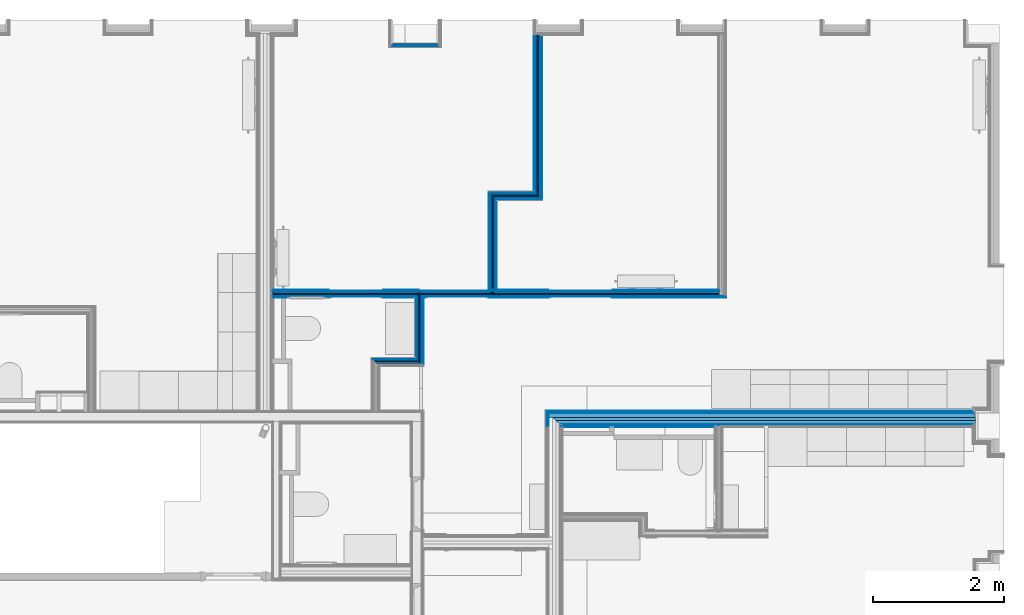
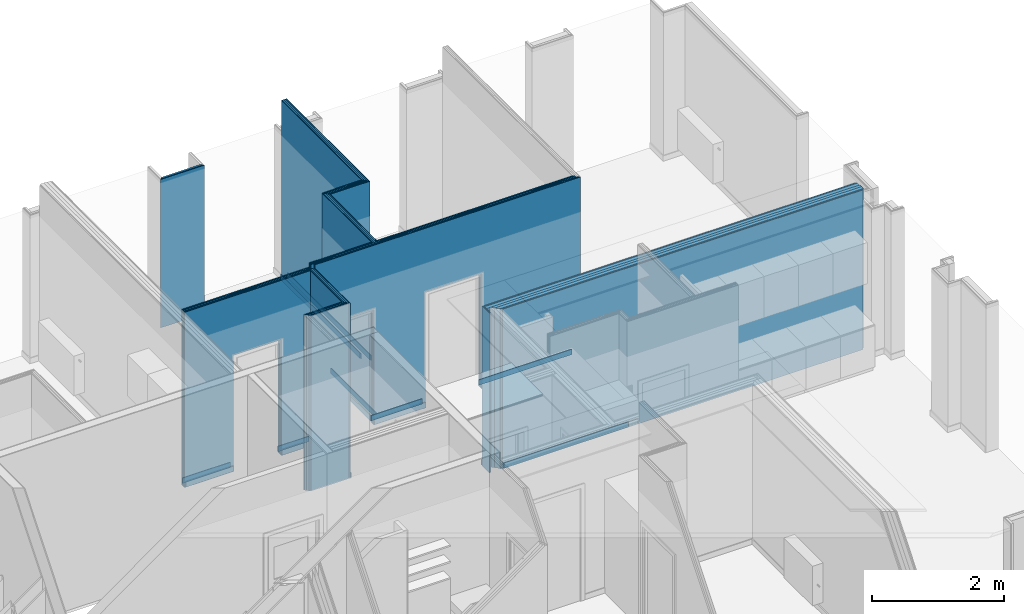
# One storey, part 22 of 64: 62 building element parts, 3 openings, 10 elements without a shape of their own.
"""IFC2X3 building model written with IfcOpenShell, lengths in metres."""

from ifc_helpers import new_model, entity, si_unit, converted_unit, derived_unit, money_unit, direction, frame, frame_2d, origin_with_axes, place, context, subcontext, project, spatial, polyline, rectangle, outline, extrude, material, type_object, element, aggregate, save


model = new_model("IFC2X3")

# Units and contexts
model_context = context("Model", 3, precision=1e-05, world=origin_with_axes(), true_north=direction((0.0, 1.0)))
body_context = subcontext(model_context, "Body", "Model", "MODEL_VIEW", scale=1.0)
ifc_project = project(units=[si_unit("LENGTHUNIT", "METRE"), si_unit("AREAUNIT", "SQUARE_METRE"), si_unit("VOLUMEUNIT", "CUBIC_METRE"), si_unit("ABSORBEDDOSEUNIT", "GRAY"), si_unit("AMOUNTOFSUBSTANCEUNIT", "MOLE"), si_unit("DOSEEQUIVALENTUNIT", "SIEVERT"), si_unit("ELECTRICCAPACITANCEUNIT", "FARAD"), si_unit("ELECTRICCHARGEUNIT", "COULOMB"), si_unit("ELECTRICCONDUCTANCEUNIT", "SIEMENS"), si_unit("ELECTRICCURRENTUNIT", "AMPERE"), si_unit("ELECTRICRESISTANCEUNIT", "OHM"), si_unit("ELECTRICVOLTAGEUNIT", "VOLT"), si_unit("ENERGYUNIT", "JOULE"), si_unit("FORCEUNIT", "NEWTON"), si_unit("FREQUENCYUNIT", "HERTZ"), si_unit("ILLUMINANCEUNIT", "LUX"), si_unit("INDUCTANCEUNIT", "HENRY"), si_unit("LUMINOUSFLUXUNIT", "LUMEN"), si_unit("LUMINOUSINTENSITYUNIT", "CANDELA"), si_unit("MAGNETICFLUXDENSITYUNIT", "TESLA"), si_unit("MAGNETICFLUXUNIT", "WEBER"), si_unit("MASSUNIT", "GRAM"), converted_unit("PLANEANGLEUNIT", "degree", entity("IfcReal", 0.0174532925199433), si_unit("PLANEANGLEUNIT", "RADIAN"), dimensions=[0, 0, 0, 0, 0, 0, 0]), si_unit("POWERUNIT", "WATT"), si_unit("PRESSUREUNIT", "PASCAL"), si_unit("RADIOACTIVITYUNIT", "BECQUEREL"), si_unit("SOLIDANGLEUNIT", "STERADIAN"), si_unit("THERMODYNAMICTEMPERATUREUNIT", "KELVIN"), si_unit("TIMEUNIT", "SECOND"), derived_unit("ACCELERATIONUNIT", [(si_unit("LENGTHUNIT", "METRE"), 1), (si_unit("TIMEUNIT", "SECOND"), -2)]), derived_unit("ANGULARVELOCITYUNIT", [(converted_unit("PLANEANGLEUNIT", "degree", entity("IfcReal", 0.0174532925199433), si_unit("PLANEANGLEUNIT", "RADIAN"), dimensions=[0, 0, 0, 0, 0, 0, 0]), 1), (si_unit("TIMEUNIT", "SECOND"), -1)]), derived_unit("CURVATUREUNIT", [(converted_unit("PLANEANGLEUNIT", "degree", entity("IfcReal", 0.0174532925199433), si_unit("PLANEANGLEUNIT", "RADIAN"), dimensions=[0, 0, 0, 0, 0, 0, 0]), 1), (si_unit("LENGTHUNIT", "METRE"), -1)]), derived_unit("DYNAMICVISCOSITYUNIT", [(si_unit("PRESSUREUNIT", "PASCAL"), 1), (si_unit("TIMEUNIT", "SECOND"), 1)]), derived_unit("HEATFLUXDENSITYUNIT", [(si_unit("POWERUNIT", "WATT"), 1), (si_unit("LENGTHUNIT", "METRE"), -2)]), derived_unit("HEATINGVALUEUNIT", [(si_unit("ENERGYUNIT", "JOULE"), 1), (si_unit("MASSUNIT", "GRAM"), -1)]), derived_unit("INTEGERCOUNTRATEUNIT", [(si_unit("TIMEUNIT", "SECOND"), -1)]), derived_unit("IONCONCENTRATIONUNIT", [(si_unit("MASSUNIT", "GRAM"), 1), (si_unit("VOLUMEUNIT", "CUBIC_METRE"), -1)]), derived_unit("ISOTHERMALMOISTURECAPACITYUNIT", [(si_unit("VOLUMEUNIT", "CUBIC_METRE"), 1), (si_unit("MASSUNIT", "GRAM"), -1)]), derived_unit("KINEMATICVISCOSITYUNIT", [(si_unit("AREAUNIT", "SQUARE_METRE"), 1), (si_unit("TIMEUNIT", "SECOND"), -1)]), derived_unit("LINEARFORCEUNIT", [(si_unit("FORCEUNIT", "NEWTON"), 1), (si_unit("LENGTHUNIT", "METRE"), -1)]), derived_unit("LINEARMOMENTUNIT", [(si_unit("FORCEUNIT", "NEWTON"), 1), (si_unit("LENGTHUNIT", "METRE"), -1)]), derived_unit("LINEARSTIFFNESSUNIT", [(si_unit("FORCEUNIT", "NEWTON"), 1), (si_unit("LENGTHUNIT", "METRE"), -1)]), derived_unit("LINEARVELOCITYUNIT", [(si_unit("LENGTHUNIT", "METRE"), 1), (si_unit("TIMEUNIT", "SECOND"), -1)]), derived_unit("LUMINOUSINTENSITYDISTRIBUTIONUNIT", [(si_unit("LUMINOUSINTENSITYUNIT", "CANDELA"), 1), (si_unit("LUMINOUSFLUXUNIT", "LUMEN"), -1)]), derived_unit("MASSDENSITYUNIT", [(si_unit("MASSUNIT", "GRAM"), 1), (si_unit("VOLUMEUNIT", "CUBIC_METRE"), -1)]), derived_unit("MASSFLOWRATEUNIT", [(si_unit("MASSUNIT", "GRAM"), 1), (si_unit("TIMEUNIT", "SECOND"), -1)]), derived_unit("MASSPERLENGTHUNIT", [(si_unit("MASSUNIT", "GRAM"), 1), (si_unit("LENGTHUNIT", "METRE"), -1)]), derived_unit("MODULUSOFELASTICITYUNIT", [(si_unit("FORCEUNIT", "NEWTON"), 1), (si_unit("AREAUNIT", "SQUARE_METRE"), -1)]), derived_unit("MODULUSOFLINEARSUBGRADEREACTIONUNIT", [(si_unit("FORCEUNIT", "NEWTON"), 1), (si_unit("LENGTHUNIT", "METRE"), -2)]), derived_unit("MODULUSOFROTATIONALSUBGRADEREACTIONUNIT", [(si_unit("FORCEUNIT", "NEWTON"), 1), (si_unit("LENGTHUNIT", "METRE"), 1)]), derived_unit("MODULUSOFSUBGRADEREACTIONUNIT", [(si_unit("FORCEUNIT", "NEWTON"), 1), (si_unit("VOLUMEUNIT", "CUBIC_METRE"), -1)]), derived_unit("MOISTUREDIFFUSIVITYUNIT", [(si_unit("VOLUMEUNIT", "CUBIC_METRE"), 1), (si_unit("TIMEUNIT", "SECOND"), -1)]), derived_unit("MOLECULARWEIGHTUNIT", [(si_unit("MASSUNIT", "GRAM"), 1), (si_unit("AMOUNTOFSUBSTANCEUNIT", "MOLE"), -1)]), derived_unit("PLANARFORCEUNIT", [(si_unit("FORCEUNIT", "NEWTON"), 1), (si_unit("LENGTHUNIT", "METRE"), -2)]), derived_unit("ROTATIONALFREQUENCYUNIT", [(si_unit("TIMEUNIT", "SECOND"), -1)]), derived_unit("ROTATIONALMASSUNIT", [(si_unit("MASSUNIT", "GRAM"), 1), (si_unit("LENGTHUNIT", "METRE"), 2)]), derived_unit("ROTATIONALSTIFFNESSUNIT", [(si_unit("FORCEUNIT", "NEWTON"), 1), (si_unit("LENGTHUNIT", "METRE"), 1), (converted_unit("PLANEANGLEUNIT", "degree", entity("IfcReal", 0.0174532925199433), si_unit("PLANEANGLEUNIT", "RADIAN"), dimensions=[0, 0, 0, 0, 0, 0, 0]), -1)]), derived_unit("SECTIONAREAINTEGRALUNIT", [(si_unit("LENGTHUNIT", "METRE"), 5)]), derived_unit("SECTIONMODULUSUNIT", [(si_unit("LENGTHUNIT", "METRE"), 3)]), derived_unit("SHEARMODULUSUNIT", [(si_unit("FORCEUNIT", "NEWTON"), 1), (si_unit("AREAUNIT", "SQUARE_METRE"), -1)]), derived_unit("SOUNDPOWERUNIT", [(si_unit("ENERGYUNIT", "JOULE"), 1), (si_unit("TIMEUNIT", "SECOND"), -1)]), derived_unit("SPECIFICHEATCAPACITYUNIT", [(si_unit("FORCEUNIT", "NEWTON"), 1), (si_unit("MASSUNIT", "GRAM"), -1), (si_unit("THERMODYNAMICTEMPERATUREUNIT", "KELVIN"), -1)]), derived_unit("TEMPERATUREGRADIENTUNIT", [(si_unit("THERMODYNAMICTEMPERATUREUNIT", "KELVIN"), 1), (si_unit("LENGTHUNIT", "METRE"), -1)]), derived_unit("THERMALADMITTANCEUNIT", [(si_unit("POWERUNIT", "WATT"), 1), (si_unit("AREAUNIT", "SQUARE_METRE"), -1), (si_unit("THERMODYNAMICTEMPERATUREUNIT", "KELVIN"), -1)]), derived_unit("THERMALCONDUCTANCEUNIT", [(si_unit("POWERUNIT", "WATT"), 1), (si_unit("LENGTHUNIT", "METRE"), -1), (si_unit("THERMODYNAMICTEMPERATUREUNIT", "KELVIN"), -1)]), derived_unit("THERMALEXPANSIONCOEFFICIENTUNIT", [(si_unit("THERMODYNAMICTEMPERATUREUNIT", "KELVIN"), -1)]), derived_unit("THERMALRESISTANCEUNIT", [(si_unit("AREAUNIT", "SQUARE_METRE"), 1), (si_unit("POWERUNIT", "WATT"), -1)]), derived_unit("THERMALTRANSMITTANCEUNIT", [(si_unit("POWERUNIT", "WATT"), 1), (si_unit("AREAUNIT", "SQUARE_METRE"), -1), (si_unit("THERMODYNAMICTEMPERATUREUNIT", "KELVIN"), -1)]), derived_unit("TORQUEUNIT", [(si_unit("FORCEUNIT", "NEWTON"), 1), (si_unit("LENGTHUNIT", "METRE"), 1)]), derived_unit("VAPORPERMEABILITYUNIT", [(si_unit("MASSUNIT", "GRAM"), 1), (si_unit("TIMEUNIT", "SECOND"), -1)]), derived_unit("VOLUMETRICFLOWRATEUNIT", [(si_unit("VOLUMEUNIT", "CUBIC_METRE"), 1), (si_unit("TIMEUNIT", "SECOND"), -1)]), derived_unit("WARPINGCONSTANTUNIT", [(si_unit("LENGTHUNIT", "METRE"), 6)]), derived_unit("WARPINGMOMENTUNIT", [(si_unit("FORCEUNIT", "NEWTON"), 1), (si_unit("LENGTHUNIT", "METRE"), 2)]), money_unit("GBP")], contexts=[model_context])

# Site, building, storey
site_placement = place(None, origin_with_axes())
site = spatial("IfcSite", under=ifc_project, at=site_placement, Name="Site", CompositionType="ELEMENT")
building_placement = place(site_placement, origin_with_axes())
building = spatial("IfcBuilding", under=site, at=building_placement, Name="Building01", CompositionType="ELEMENT")
storey_placement = place(building_placement, frame((0.0, 0.0, 8.64), z_axis=(0.0, 0.0, 1.0), x_axis=(1.0, 0.0, 0.0)))
storey = spatial("IfcBuildingStorey", under=building, at=storey_placement, Name="2F", CompositionType="ELEMENT", Elevation=8.64)

# Wall, building element parts
wall_type_1 = type_object("IfcWallType", Name="SHE_A-Walls_Type06d_ExternalWallInsulation_48mm", PredefinedType="NOTDEFINED")
wall_1_placement = place(storey_placement, frame((18.22, 14.45, 0.0), z_axis=(0.0, 0.0, 1.0), x_axis=(-1.0, 0.0, 0.0)))
wall_1 = element("IfcWall", 1, at=wall_1_placement, inside=storey, type_object=wall_type_1, Name="6D", ObjectType="SHE_A-Walls_Type06d_ExternalWallInsulation_48mm")
ifc_material_1 = material(Name="A_BSUK_Insulation")
placement_1 = place(wall_1_placement, origin_with_axes())
building_element_part_1 = element("IfcBuildingElementPart", 2, at=placement_1, material=ifc_material_1, Name="1", context=body_context, shape_type="SweptSolid", body=[
    extrude(outline(polyline([(0.706, 0.036), (-0.036, 0.036), (0.0, 0.0), (0.67, 0.0), (0.706, 0.036)])), origin_with_axes(), (0.0, 0.0, 1.0), 2.74),
])
ifc_material_2 = material(Name="A_BSUK_WallInternal_Finishes_Plasterboard")
building_element_part_2 = element("IfcBuildingElementPart", 3, at=placement_1, material=ifc_material_2, Name="2", context=body_context, shape_type="SweptSolid", body=[
    extrude(outline(polyline([(0.718, 0.048), (-0.048, 0.048), (-0.035, 0.035), (0.705, 0.035), (0.718, 0.048)])), origin_with_axes(), (0.0, 0.0, 1.0), 2.74),
])
aggregate(wall_1, [building_element_part_1, building_element_part_2])

wall_type_2 = type_object("IfcWallType", Name="SHE_A-Walls_Type05a_Partition_95mm_tall", PredefinedType="NOTDEFINED")
wall_2_placement = place(storey_placement, frame((19.775, 12.099378, 0.0), z_axis=(0.0, 0.0, 1.0), x_axis=(0.0, 1.0, 0.0)))
wall_2 = element("IfcWall", 4, at=wall_2_placement, inside=storey, type_object=wall_type_2, Name="5A", ObjectType="SHE_A-Walls_Type05a_Partition_95mm_tall")
ifc_material_3 = material(Name="A_BSUK_Walls_Timber")
placement_2 = place(wall_2_placement, origin_with_axes())
building_element_part_3 = element("IfcBuildingElementPart", 5, at=placement_2, material=ifc_material_3, Name="1", context=body_context, shape_type="SweptSolid", body=[
    extrude(outline(polyline([(2.467622, -0.035), (-0.035, -0.035), (-0.05, -0.05), (2.467622, -0.05), (2.467622, -0.035)])), frame((0.0, 0.0, 0.015), z_axis=(0.0, 0.0, 1.0), x_axis=(1.0, 0.0, 0.0)), (0.0, 0.0, 1.0), 0.1),
])
building_element_part_4 = element("IfcBuildingElementPart", 6, at=placement_2, material=ifc_material_2, Name="2", context=body_context, shape_type="SweptSolid", body=[
    extrude(outline(polyline([(2.482622, -0.023), (-0.023, -0.023), (-0.035, -0.035), (2.482622, -0.035), (2.482622, -0.023)])), origin_with_axes(), (0.0, 0.0, 1.0), 3.32),
])
ifc_material_4 = material(Name="Air Cavity")
building_element_part_5 = element("IfcBuildingElementPart", 7, at=placement_2, material=ifc_material_4, Name="3", context=body_context, shape_type="SweptSolid", body=[
    extrude(outline(polyline([(2.482622, 0.0), (0.0, 0.0), (-0.023, -0.023), (2.482622, -0.023), (2.482622, 0.0)])), origin_with_axes(), (0.0, 0.0, 1.0), 3.32),
])
building_element_part_6 = element("IfcBuildingElementPart", 8, at=placement_2, material=ifc_material_1, Name="4", context=body_context, shape_type="SweptSolid", body=[
    extrude(outline(polyline([(2.482622, 0.025), (0.025, 0.025), (0.0, 0.0), (2.482622, 0.0), (2.482622, 0.025)])), origin_with_axes(), (0.0, 0.0, 1.0), 3.32),
])
building_element_part_7 = element("IfcBuildingElementPart", 9, at=placement_2, material=ifc_material_4, Name="5", context=body_context, shape_type="SweptSolid", body=[
    extrude(outline(polyline([(2.482622, 0.048), (0.048, 0.048), (0.025, 0.025), (2.482622, 0.025), (2.482622, 0.048)])), origin_with_axes(), (0.0, 0.0, 1.0), 3.32),
])
building_element_part_8 = element("IfcBuildingElementPart", 10, at=placement_2, material=ifc_material_2, Name="6", context=body_context, shape_type="SweptSolid", body=[
    extrude(outline(polyline([(2.482622, 0.06), (0.06, 0.06), (0.048, 0.048), (2.482622, 0.048), (2.482622, 0.06)])), origin_with_axes(), (0.0, 0.0, 1.0), 3.32),
])
building_element_part_9 = element("IfcBuildingElementPart", 11, at=placement_2, material=ifc_material_3, Name="7", context=body_context, shape_type="SweptSolid", body=[
    extrude(outline(polyline([(2.482622, 0.075), (0.075, 0.075), (0.06, 0.06), (2.482622, 0.06), (2.482622, 0.075)])), frame((0.0, 0.0, 0.015), z_axis=(0.0, 0.0, 1.0), x_axis=(1.0, 0.0, 0.0)), (0.0, 0.0, 1.0), 0.1),
])
aggregate(wall_2, [building_element_part_3, building_element_part_4, building_element_part_5, building_element_part_6, building_element_part_7, building_element_part_8, building_element_part_9])

wall_3_placement = place(storey_placement, frame((19.085284, 12.099378, 0.0), z_axis=(0.0, 0.0, 1.0), x_axis=(1.0, 0.0, 0.0)))
wall_3 = element("IfcWall", 12, at=wall_3_placement, inside=storey, type_object=wall_type_2, Name="5A", ObjectType="SHE_A-Walls_Type05a_Partition_95mm_tall")
placement_3 = place(wall_3_placement, origin_with_axes())
building_element_part_10 = element("IfcBuildingElementPart", 13, at=placement_3, material=ifc_material_2, Name="2", context=body_context, shape_type="SweptSolid", body=[
    extrude(outline(polyline([(0.712716, -0.023), (0.023, -0.023), (0.035, -0.035), (0.724716, -0.035), (0.712716, -0.023)])), origin_with_axes(), (0.0, 0.0, 1.0), 3.32),
])
building_element_part_11 = element("IfcBuildingElementPart", 14, at=placement_3, material=ifc_material_4, Name="3", context=body_context, shape_type="SweptSolid", body=[
    extrude(outline(polyline([(0.689716, 0.0), (0.0, 0.0), (0.023, -0.023), (0.712716, -0.023), (0.689716, 0.0)])), origin_with_axes(), (0.0, 0.0, 1.0), 3.32),
])
building_element_part_12 = element("IfcBuildingElementPart", 15, at=placement_3, material=ifc_material_1, Name="4", context=body_context, shape_type="SweptSolid", body=[
    extrude(outline(polyline([(0.664716, 0.025), (-0.025, 0.025), (0.0, 0.0), (0.689716, 0.0), (0.664716, 0.025)])), origin_with_axes(), (0.0, 0.0, 1.0), 3.32),
])
building_element_part_13 = element("IfcBuildingElementPart", 16, at=placement_3, material=ifc_material_4, Name="5", context=body_context, shape_type="SweptSolid", body=[
    extrude(outline(polyline([(0.641716, 0.048), (-0.048, 0.048), (-0.025, 0.025), (0.664716, 0.025), (0.641716, 0.048)])), origin_with_axes(), (0.0, 0.0, 1.0), 3.32),
])
building_element_part_14 = element("IfcBuildingElementPart", 17, at=placement_3, material=ifc_material_2, Name="6", context=body_context, shape_type="SweptSolid", body=[
    extrude(outline(polyline([(0.629716, 0.06), (-0.06, 0.06), (-0.048, 0.048), (0.641716, 0.048), (0.629716, 0.06)])), origin_with_axes(), (0.0, 0.0, 1.0), 3.32),
])
aggregate(wall_3, [building_element_part_10, building_element_part_11, building_element_part_12, building_element_part_13, building_element_part_14])

wall_4_placement = place(storey_placement, frame((19.085284, 10.63, 0.0), z_axis=(0.0, 0.0, 1.0), x_axis=(0.0, 1.0, 0.0)))
wall_4 = element("IfcWall", 18, at=wall_4_placement, inside=storey, type_object=wall_type_2, Name="5A", ObjectType="SHE_A-Walls_Type05a_Partition_95mm_tall")
placement_4 = place(wall_4_placement, origin_with_axes())
building_element_part_15 = element("IfcBuildingElementPart", 19, at=placement_4, material=ifc_material_3, Name="1", context=body_context, shape_type="SweptSolid", body=[
    extrude(outline(polyline([(1.434378, -0.035), (0.05, -0.035), (0.05, -0.05), (1.419378, -0.05), (1.434378, -0.035)])), frame((0.0, 0.0, 0.015), z_axis=(0.0, 0.0, 1.0), x_axis=(1.0, 0.0, 0.0)), (0.0, 0.0, 1.0), 0.1),
])
building_element_part_16 = element("IfcBuildingElementPart", 20, at=placement_4, material=ifc_material_2, Name="2", context=body_context, shape_type="SweptSolid", body=[
    extrude(outline(polyline([(1.446378, -0.023), (0.035, -0.023), (0.035, -0.035), (1.434378, -0.035), (1.446378, -0.023)])), origin_with_axes(), (0.0, 0.0, 1.0), 3.32),
])
building_element_part_17 = element("IfcBuildingElementPart", 21, at=placement_4, material=ifc_material_4, Name="3", context=body_context, shape_type="SweptSolid", body=[
    extrude(outline(polyline([(1.469378, 0.0), (0.035, 0.0), (0.035, -0.023), (1.446378, -0.023), (1.469378, 0.0)])), origin_with_axes(), (0.0, 0.0, 1.0), 3.32),
])
building_element_part_18 = element("IfcBuildingElementPart", 22, at=placement_4, material=ifc_material_1, Name="4", context=body_context, shape_type="SweptSolid", body=[
    extrude(outline(polyline([(1.494378, 0.025), (0.0, 0.025), (0.0, 0.0), (1.469378, 0.0), (1.494378, 0.025)])), origin_with_axes(), (0.0, 0.0, 1.0), 3.32),
])
building_element_part_19 = element("IfcBuildingElementPart", 23, at=placement_4, material=ifc_material_4, Name="5", context=body_context, shape_type="SweptSolid", body=[
    extrude(outline(polyline([(1.517378, 0.048), (0.0, 0.048), (0.0, 0.025), (1.494378, 0.025), (1.517378, 0.048)])), origin_with_axes(), (0.0, 0.0, 1.0), 3.32),
])
building_element_part_20 = element("IfcBuildingElementPart", 24, at=placement_4, material=ifc_material_2, Name="6", context=body_context, shape_type="SweptSolid", body=[
    extrude(outline(polyline([(1.529378, 0.06), (0.035, 0.06), (0.035, 0.048), (1.517378, 0.048), (1.529378, 0.06)])), origin_with_axes(), (0.0, 0.0, 1.0), 3.32),
])
building_element_part_21 = element("IfcBuildingElementPart", 25, at=placement_4, material=ifc_material_3, Name="7", context=body_context, shape_type="SweptSolid", body=[
    extrude(outline(polyline([(1.544378, 0.075), (0.05, 0.075), (0.035, 0.06), (1.529378, 0.06), (1.544378, 0.075)])), frame((0.0, 0.0, 0.015), z_axis=(0.0, 0.0, 1.0), x_axis=(1.0, 0.0, 0.0)), (0.0, 0.0, 1.0), 0.1),
])
aggregate(wall_4, [building_element_part_15, building_element_part_16, building_element_part_17, building_element_part_18, building_element_part_19, building_element_part_20, building_element_part_21])

wall_type_3 = type_object("IfcWallType", Name="SHE_A-Walls_Type01c_Partywall_225mm_twin_tall", PredefinedType="NOTDEFINED")
wall_5_placement = place(storey_placement, frame((26.444, 8.732, 0.0), z_axis=(0.0, 0.0, 1.0), x_axis=(-1.0, 0.0, 0.0)))
wall_5 = element("IfcWall", 26, at=wall_5_placement, inside=storey, type_object=wall_type_3, Name="1C", ObjectType="SHE_A-Walls_Type01c_Partywall_225mm_twin_tall")
placement_5 = place(wall_5_placement, origin_with_axes())
building_element_part_22 = element("IfcBuildingElementPart", 27, at=placement_5, material=ifc_material_3, Name="1", context=body_context, shape_type="SweptSolid", body=[
    extrude(outline(polyline([(6.546339, -0.088), (0.027, -0.088), (0.027, -0.103), (6.561339, -0.103), (6.546339, -0.088)])), frame((0.0, 0.0, 0.015), z_axis=(0.0, 0.0, 1.0), x_axis=(1.0, 0.0, 0.0)), (0.0, 0.0, 1.0), 0.1),
])
building_element_part_23 = element("IfcBuildingElementPart", 28, at=placement_5, material=ifc_material_2, Name="2", context=body_context, shape_type="SweptSolid", body=[
    extrude(rectangle(XDim=6.504339, YDim=0.015, at=frame_2d((3.279169, -0.0805), x_axis=(-1.0, 0.0))), origin_with_axes(), (0.0, 0.0, 1.0), 2.95),
])
building_element_part_24 = element("IfcBuildingElementPart", 29, at=placement_5, material=ifc_material_2, Name="3", context=body_context, shape_type="SweptSolid", body=[
    extrude(rectangle(XDim=6.504339, YDim=0.015, at=frame_2d((3.264169, -0.0655), x_axis=(-1.0, 0.0))), origin_with_axes(), (0.0, 0.0, 1.0), 2.95),
])
building_element_part_25 = element("IfcBuildingElementPart", 30, at=placement_5, material=ifc_material_4, Name="4", context=body_context, shape_type="SweptSolid", body=[
    extrude(rectangle(XDim=6.504339, YDim=0.058, at=frame_2d((3.264169, -0.029), x_axis=(-1.0, 0.0))), origin_with_axes(), (0.0, 0.0, 1.0), 2.95),
])
building_element_part_26 = element("IfcBuildingElementPart", 31, at=placement_5, material=ifc_material_1, Name="5", context=body_context, shape_type="SweptSolid", body=[
    extrude(outline(polyline([(6.408339, 0.05), (0.0, 0.05), (0.0, 0.0), (6.458339, 0.0), (6.408339, 0.05)])), origin_with_axes(), (0.0, 0.0, 1.0), 2.95),
])
building_element_part_27 = element("IfcBuildingElementPart", 32, at=placement_5, material=ifc_material_4, Name="6", context=body_context, shape_type="SweptSolid", body=[
    extrude(outline(polyline([(6.351339, 0.107), (0.0, 0.107), (0.0, 0.05), (6.408339, 0.05), (6.351339, 0.107)])), origin_with_axes(), (0.0, 0.0, 1.0), 2.95),
])
building_element_part_28 = element("IfcBuildingElementPart", 33, at=placement_5, material=ifc_material_2, Name="7", context=body_context, shape_type="SweptSolid", body=[
    extrude(rectangle(XDim=0.015, YDim=6.339339, at=frame_2d((3.181669, 0.1145), x_axis=(0.0, -1.0))), origin_with_axes(), (0.0, 0.0, 1.0), 2.95),
])
building_element_part_29 = element("IfcBuildingElementPart", 34, at=placement_5, material=ifc_material_2, Name="8", context=body_context, shape_type="SweptSolid", body=[
    extrude(rectangle(XDim=6.294339, YDim=0.015, at=frame_2d((3.174169, 0.1295), x_axis=(-1.0, 0.0))), origin_with_axes(), (0.0, 0.0, 1.0), 2.95),
])
building_element_part_30 = element("IfcBuildingElementPart", 35, at=placement_5, material=ifc_material_3, Name="9", context=body_context, shape_type="SweptSolid", body=[
    extrude(outline(polyline([(6.306339, 0.152), (4.132339, 0.152), (4.117339, 0.137), (6.321339, 0.137), (6.306339, 0.152)])), frame((0.0, 0.0, 0.015), z_axis=(0.0, 0.0, 1.0), x_axis=(1.0, 0.0, 0.0)), (0.0, 0.0, 1.0), 0.1),
])
building_element_part_31 = element("IfcBuildingElementPart", 36, at=placement_5, material=ifc_material_3, Name="10", context=body_context, shape_type="SweptSolid", body=[
    extrude(outline(polyline([(6.306339, 0.152), (4.132339, 0.152), (4.117339, 0.137), (6.321339, 0.137), (6.306339, 0.152)])), frame((0.0, 0.0, 0.015), z_axis=(0.0, 0.0, 1.0), x_axis=(1.0, 0.0, 0.0)), (0.0, 0.0, 1.0), 0.1),
])
building_element_part_32 = element("IfcBuildingElementPart", 37, at=placement_5, material=ifc_material_3, Name="12", context=body_context, shape_type="SweptSolid", body=[
    extrude(outline(polyline([(6.321339, 0.152), (3.967339, 0.152), (3.967339, 0.137), (6.336339, 0.137), (6.321339, 0.152)])), frame((0.0, 0.0, 0.015), z_axis=(0.0, 0.0, 1.0), x_axis=(1.0, 0.0, 0.0)), (0.0, 0.0, 1.0), 0.1),
])
aggregate(wall_5, [building_element_part_22, building_element_part_23, building_element_part_24, building_element_part_25, building_element_part_26, building_element_part_27, building_element_part_28, building_element_part_29, building_element_part_30, building_element_part_31, building_element_part_32])

wall_6_placement = place(storey_placement, frame((19.985661, 8.732, 0.0), z_axis=(0.0, 0.0, 1.0), x_axis=(0.0, -1.0, 0.0)))
wall_6 = element("IfcWall", 38, at=wall_6_placement, inside=storey, type_object=wall_type_3, Name="1C", ObjectType="SHE_A-Walls_Type01c_Partywall_225mm_twin_tall")
placement_6 = place(wall_6_placement, origin_with_axes())
building_element_part_33 = element("IfcBuildingElementPart", 39, at=placement_6, material=ifc_material_2, Name="4", context=body_context, shape_type="SweptSolid", body=[
    extrude(outline(polyline([(0.122, -0.073), (-0.088, -0.073), (-0.088, -0.088), (0.137, -0.088), (0.122, -0.073)])), origin_with_axes(), (0.0, 0.0, 1.0), 2.95),
])
building_element_part_34 = element("IfcBuildingElementPart", 40, at=placement_6, material=ifc_material_2, Name="7", context=body_context, shape_type="SweptSolid", body=[
    extrude(outline(polyline([(0.122, -0.058), (-0.073, -0.058), (-0.073, -0.073), (0.137, -0.073), (0.122, -0.058)])), origin_with_axes(), (0.0, 0.0, 1.0), 2.95),
])
aggregate(wall_6, [building_element_part_33, building_element_part_34])

# Wall, opening, building element parts
wall_7_placement = place(storey_placement, frame((17.94, 10.63, 0.0), z_axis=(0.0, 0.0, 1.0), x_axis=(-1.0, 0.0, 0.0)))
wall_7 = element("IfcWall", 41, at=wall_7_placement, inside=storey, type_object=wall_type_2, Name="5A", ObjectType="SHE_A-Walls_Type05a_Partition_95mm_tall")
opening_1_placement = place(wall_7_placement, frame((0.540552, -0.05, 0.0), z_axis=(0.0, 0.0, 1.0), x_axis=(1.0, 0.0, 0.0)))
element("IfcOpeningElement", 42, at=opening_1_placement, cuts=wall_7, Name="Opening", ObjectType="Opening", context=body_context, shape_type="SweptSolid", body=[
    extrude(rectangle(XDim=0.834, YDim=2.142, at=frame_2d((-0.417, 1.071), x_axis=(-1.0, 0.0))), frame((0.0, 0.0, 0.0), z_axis=(0.0, 1.0, 0.0), x_axis=(-1.0, 0.0, 0.0)), (0.0, 0.0, 1.0), 0.125),
])
placement_7 = place(wall_7_placement, origin_with_axes())
building_element_part_35 = element("IfcBuildingElementPart", 43, at=placement_7, material=ifc_material_3, Name="1", context=body_context, shape_type="SweptSolid", body=[
    extrude(rectangle(XDim=2.216868, YDim=0.015, at=frame_2d((1.108434, -0.0425), x_axis=(-1.0, 0.0))), frame((0.0, 0.0, 0.015), z_axis=(0.0, 0.0, 1.0), x_axis=(1.0, 0.0, 0.0)), (0.0, 0.0, 1.0), 0.1),
])
building_element_part_36 = element("IfcBuildingElementPart", 44, at=placement_7, material=ifc_material_2, Name="2", context=body_context, shape_type="SweptSolid", body=[
    extrude(rectangle(XDim=2.231868, YDim=0.012, at=frame_2d((1.115934, -0.029), x_axis=(-1.0, 0.0))), origin_with_axes(), (0.0, 0.0, 1.0), 3.24),
])
building_element_part_37 = element("IfcBuildingElementPart", 45, at=placement_7, material=ifc_material_4, Name="3", context=body_context, shape_type="SweptSolid", body=[
    extrude(rectangle(XDim=2.231868, YDim=0.023, at=frame_2d((1.115934, -0.0115), x_axis=(-1.0, 0.0))), origin_with_axes(), (0.0, 0.0, 1.0), 3.24),
])
building_element_part_38 = element("IfcBuildingElementPart", 46, at=placement_7, material=ifc_material_1, Name="4", context=body_context, shape_type="SweptSolid", body=[
    extrude(rectangle(XDim=2.231868, YDim=0.025, at=frame_2d((1.115934, 0.0125), x_axis=(-1.0, 0.0))), origin_with_axes(), (0.0, 0.0, 1.0), 3.24),
])
building_element_part_39 = element("IfcBuildingElementPart", 47, at=placement_7, material=ifc_material_4, Name="5", context=body_context, shape_type="SweptSolid", body=[
    extrude(rectangle(XDim=2.231868, YDim=0.023, at=frame_2d((1.115934, 0.0365), x_axis=(-1.0, 0.0))), origin_with_axes(), (0.0, 0.0, 1.0), 3.24),
])
building_element_part_40 = element("IfcBuildingElementPart", 48, at=placement_7, material=ifc_material_2, Name="6", context=body_context, shape_type="SweptSolid", body=[
    extrude(rectangle(XDim=2.208868, YDim=0.012, at=frame_2d((1.127434, 0.054), x_axis=(-1.0, 0.0))), origin_with_axes(), (0.0, 0.0, 1.0), 3.24),
])
building_element_part_41 = element("IfcBuildingElementPart", 49, at=placement_7, material=ifc_material_3, Name="7", context=body_context, shape_type="SweptSolid", body=[
    extrude(rectangle(XDim=2.181868, YDim=0.015, at=frame_2d((1.125934, 0.0675), x_axis=(-1.0, 0.0))), frame((0.0, 0.0, 0.015), z_axis=(0.0, 0.0, 1.0), x_axis=(1.0, 0.0, 0.0)), (0.0, 0.0, 1.0), 0.1),
])
aggregate(wall_7, [building_element_part_35, building_element_part_36, building_element_part_37, building_element_part_38, building_element_part_39, building_element_part_40, building_element_part_41])

# Wall, building element parts
wall_8_placement = place(storey_placement, frame((17.273132, 9.585, 0.0), z_axis=(0.0, 0.0, 1.0), x_axis=(1.0, 0.0, 0.0)))
wall_8 = element("IfcWall", 50, at=wall_8_placement, inside=storey, type_object=wall_type_2, Name="5A", ObjectType="SHE_A-Walls_Type05a_Partition_95mm_tall")
placement_8 = place(wall_8_placement, origin_with_axes())
building_element_part_42 = element("IfcBuildingElementPart", 51, at=placement_8, material=ifc_material_4, Name="3", context=body_context, shape_type="SweptSolid", body=[
    extrude(outline(polyline([(0.691868, -0.025), (0.025, -0.025), (0.048, -0.048), (0.714868, -0.048), (0.691868, -0.025)])), origin_with_axes(), (0.0, 0.0, 1.0), 3.24),
])
building_element_part_43 = element("IfcBuildingElementPart", 52, at=placement_8, material=ifc_material_1, Name="4", context=body_context, shape_type="SweptSolid", body=[
    extrude(outline(polyline([(0.666868, 0.0), (0.0, 0.0), (0.025, -0.025), (0.691868, -0.025), (0.666868, 0.0)])), origin_with_axes(), (0.0, 0.0, 1.0), 3.24),
])
building_element_part_44 = element("IfcBuildingElementPart", 53, at=placement_8, material=ifc_material_4, Name="5", context=body_context, shape_type="SweptSolid", body=[
    extrude(outline(polyline([(0.643868, 0.023), (-0.023, 0.023), (0.0, 0.0), (0.666868, 0.0), (0.643868, 0.023)])), origin_with_axes(), (0.0, 0.0, 1.0), 3.24),
])
building_element_part_45 = element("IfcBuildingElementPart", 54, at=placement_8, material=ifc_material_2, Name="6", context=body_context, shape_type="SweptSolid", body=[
    extrude(outline(polyline([(0.631868, 0.035), (-0.035, 0.035), (-0.023, 0.023), (0.643868, 0.023), (0.631868, 0.035)])), origin_with_axes(), (0.0, 0.0, 1.0), 3.24),
])
aggregate(wall_8, [building_element_part_42, building_element_part_43, building_element_part_44, building_element_part_45])

wall_9_placement = place(storey_placement, frame((17.94, 9.585, 0.0), z_axis=(0.0, 0.0, 1.0), x_axis=(0.0, 1.0, 0.0)))
wall_9 = element("IfcWall", 55, at=wall_9_placement, inside=storey, type_object=wall_type_2, Name="5A", ObjectType="SHE_A-Walls_Type05a_Partition_95mm_tall")
placement_9 = place(wall_9_placement, origin_with_axes())
building_element_part_46 = element("IfcBuildingElementPart", 56, at=placement_9, material=ifc_material_3, Name="1", context=body_context, shape_type="SweptSolid", body=[
    extrude(outline(polyline([(0.97, -0.06), (-0.06, -0.06), (-0.075, -0.075), (0.97, -0.075), (0.97, -0.06)])), frame((0.0, 0.0, 0.015), z_axis=(0.0, 0.0, 1.0), x_axis=(1.0, 0.0, 0.0)), (0.0, 0.0, 1.0), 0.1),
])
building_element_part_47 = element("IfcBuildingElementPart", 57, at=placement_9, material=ifc_material_2, Name="2", context=body_context, shape_type="SweptSolid", body=[
    extrude(outline(polyline([(0.985, -0.048), (-0.048, -0.048), (-0.06, -0.06), (0.985, -0.06), (0.985, -0.048)])), origin_with_axes(), (0.0, 0.0, 1.0), 3.24),
])
building_element_part_48 = element("IfcBuildingElementPart", 58, at=placement_9, material=ifc_material_4, Name="3", context=body_context, shape_type="SweptSolid", body=[
    extrude(outline(polyline([(0.985, -0.025), (-0.025, -0.025), (-0.048, -0.048), (0.985, -0.048), (0.985, -0.025)])), origin_with_axes(), (0.0, 0.0, 1.0), 3.24),
])
building_element_part_49 = element("IfcBuildingElementPart", 59, at=placement_9, material=ifc_material_1, Name="4", context=body_context, shape_type="SweptSolid", body=[
    extrude(outline(polyline([(1.02, 0.0), (0.0, 0.0), (-0.025, -0.025), (1.02, -0.025), (1.02, 0.0)])), origin_with_axes(), (0.0, 0.0, 1.0), 3.24),
])
building_element_part_50 = element("IfcBuildingElementPart", 60, at=placement_9, material=ifc_material_4, Name="5", context=body_context, shape_type="SweptSolid", body=[
    extrude(outline(polyline([(1.02, 0.023), (0.023, 0.023), (0.0, 0.0), (1.02, 0.0), (1.02, 0.023)])), origin_with_axes(), (0.0, 0.0, 1.0), 3.24),
])
building_element_part_51 = element("IfcBuildingElementPart", 61, at=placement_9, material=ifc_material_2, Name="6", context=body_context, shape_type="SweptSolid", body=[
    extrude(outline(polyline([(0.985, 0.035), (0.035, 0.035), (0.023, 0.023), (0.985, 0.023), (0.985, 0.035)])), origin_with_axes(), (0.0, 0.0, 1.0), 3.24),
])
aggregate(wall_9, [building_element_part_46, building_element_part_47, building_element_part_48, building_element_part_49, building_element_part_50, building_element_part_51])

# Wall, openings, building element parts
wall_10_placement = place(storey_placement, frame((17.94, 10.605, 0.0), z_axis=(0.0, 0.0, 1.0), x_axis=(1.0, 0.0, 0.0)))
wall_10 = element("IfcWall", 62, at=wall_10_placement, inside=storey, type_object=wall_type_2, Name="5A", ObjectType="SHE_A-Walls_Type05a_Partition_95mm_tall")
opening_2_placement = place(wall_10_placement, frame((0.093398, -0.05, -0.015), z_axis=(0.0, 0.0, 1.0), x_axis=(1.0, 0.0, 0.0)))
element("IfcOpeningElement", 63, at=opening_2_placement, cuts=wall_10, Name="Opening", ObjectType="Opening", context=body_context, shape_type="SweptSolid", body=[
    extrude(rectangle(XDim=0.984, YDim=2.142, at=frame_2d((-0.492, 1.071), x_axis=(1.0, 0.0))), frame((0.0, 0.0, 0.0), z_axis=(0.0, 1.0, 0.0), x_axis=(-1.0, 0.0, 0.0)), (0.0, 0.0, 1.0), 0.125),
])
opening_3_placement = place(wall_10_placement, frame((1.978284, -0.05, -0.015), z_axis=(0.0, 0.0, 1.0), x_axis=(1.0, 0.0, 0.0)))
element("IfcOpeningElement", 64, at=opening_3_placement, cuts=wall_10, Name="Opening", ObjectType="Opening", context=body_context, shape_type="SweptSolid", body=[
    extrude(rectangle(XDim=0.984, YDim=2.142, at=frame_2d((-0.492, 1.071), x_axis=(-1.0, 0.0))), frame((0.0, 0.0, 0.0), z_axis=(0.0, 1.0, 0.0), x_axis=(-1.0, 0.0, 0.0)), (0.0, 0.0, 1.0), 0.125),
])
placement_10 = place(wall_10_placement, origin_with_axes())
building_element_part_52 = element("IfcBuildingElementPart", 65, at=placement_10, material=ifc_material_3, Name="1", context=body_context, shape_type="SweptSolid", body=[
    extrude(outline(polyline([(4.685, -0.035), (0.06, -0.035), (0.06, -0.05), (4.7, -0.05), (4.685, -0.035)])), frame((0.0, 0.0, 0.015), z_axis=(0.0, 0.0, 1.0), x_axis=(1.0, 0.0, 0.0)), (0.0, 0.0, 1.0), 0.1),
])
building_element_part_53 = element("IfcBuildingElementPart", 66, at=placement_10, material=ifc_material_2, Name="2", context=body_context, shape_type="SweptSolid", body=[
    extrude(outline(polyline([(4.673, -0.023), (0.048, -0.023), (0.048, -0.035), (4.685, -0.035), (4.673, -0.023)])), origin_with_axes(), (0.0, 0.0, 1.0), 3.32),
])
building_element_part_54 = element("IfcBuildingElementPart", 67, at=placement_10, material=ifc_material_4, Name="3", context=body_context, shape_type="SweptSolid", body=[
    extrude(outline(polyline([(4.65, 0.0), (0.048, 0.0), (0.048, -0.023), (4.673, -0.023), (4.65, 0.0)])), origin_with_axes(), (0.0, 0.0, 1.0), 3.32),
])
building_element_part_55 = element("IfcBuildingElementPart", 68, at=placement_10, material=ifc_material_1, Name="4", context=body_context, shape_type="SweptSolid", body=[
    extrude(rectangle(XDim=4.625, YDim=0.025, at=frame_2d((2.3125, 0.0125), x_axis=(-1.0, 0.0))), origin_with_axes(), (0.0, 0.0, 1.0), 3.32),
])
building_element_part_56 = element("IfcBuildingElementPart", 69, at=placement_10, material=ifc_material_4, Name="5", context=body_context, shape_type="SweptSolid", body=[
    extrude(rectangle(XDim=4.625, YDim=0.023, at=frame_2d((2.3125, 0.0365), x_axis=(-1.0, 0.0))), origin_with_axes(), (0.0, 0.0, 1.0), 3.32),
])
building_element_part_57 = element("IfcBuildingElementPart", 70, at=placement_10, material=ifc_material_2, Name="6", context=body_context, shape_type="SweptSolid", body=[
    extrude(rectangle(XDim=1.097284, YDim=0.012, at=frame_2d((0.548642, 0.054), x_axis=(-1.0, 0.0))), origin_with_axes(), (0.0, 0.0, 1.0), 3.32),
])
building_element_part_58 = element("IfcBuildingElementPart", 71, at=placement_10, material=ifc_material_2, Name="7", context=body_context, shape_type="SweptSolid", body=[
    extrude(outline(polyline([(4.59, 0.06), (1.168284, 0.06), (1.168284, 0.048), (4.602, 0.048), (4.59, 0.06)])), origin_with_axes(), (0.0, 0.0, 1.0), 3.32),
])
building_element_part_59 = element("IfcBuildingElementPart", 72, at=placement_10, material=ifc_material_3, Name="8", context=body_context, shape_type="SweptSolid", body=[
    extrude(rectangle(XDim=0.015, YDim=0.881, at=frame_2d((1.510784, 0.0675), x_axis=(0.0, -1.0))), frame((0.0, 0.0, 0.015), z_axis=(0.0, 0.0, 1.0), x_axis=(1.0, 0.0, 0.0)), (0.0, 0.0, 1.0), 0.1),
])
building_element_part_60 = element("IfcBuildingElementPart", 73, at=placement_10, material=ifc_material_3, Name="9", context=body_context, shape_type="SweptSolid", body=[
    extrude(outline(polyline([(4.575, 0.075), (1.070284, 0.075), (1.085284, 0.06), (4.59, 0.06), (4.575, 0.075)])), frame((0.0, 0.0, 0.015), z_axis=(0.0, 0.0, 1.0), x_axis=(1.0, 0.0, 0.0)), (0.0, 0.0, 1.0), 0.1),
])
building_element_part_61 = element("IfcBuildingElementPart", 74, at=placement_10, material=ifc_material_3, Name="10", context=body_context, shape_type="SweptSolid", body=[
    extrude(outline(polyline([(4.575, 0.075), (1.180284, 0.075), (1.180284, 0.06), (4.59, 0.06), (4.575, 0.075)])), frame((0.0, 0.0, 0.015), z_axis=(0.0, 0.0, 1.0), x_axis=(1.0, 0.0, 0.0)), (0.0, 0.0, 1.0), 0.1),
])
building_element_part_62 = element("IfcBuildingElementPart", 75, at=placement_10, material=ifc_material_3, Name="11", context=body_context, shape_type="SweptSolid", body=[
    extrude(outline(polyline([(4.575, 0.075), (2.920284, 0.075), (2.920284, 0.06), (4.59, 0.06), (4.575, 0.075)])), frame((0.0, 0.0, 0.015), z_axis=(0.0, 0.0, 1.0), x_axis=(1.0, 0.0, 0.0)), (0.0, 0.0, 1.0), 0.1),
])
aggregate(wall_10, [building_element_part_52, building_element_part_53, building_element_part_54, building_element_part_55, building_element_part_56, building_element_part_57, building_element_part_58, building_element_part_59, building_element_part_60, building_element_part_61, building_element_part_62])

save(model, "model.ifc")
